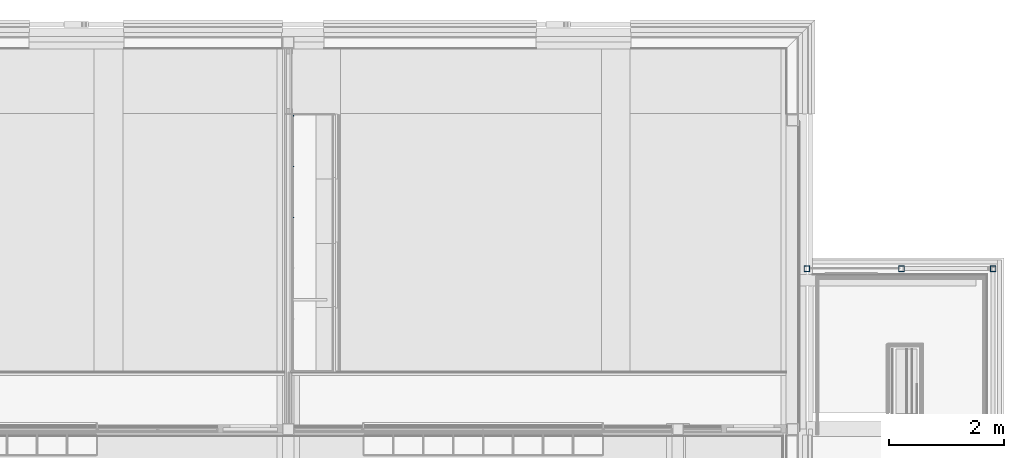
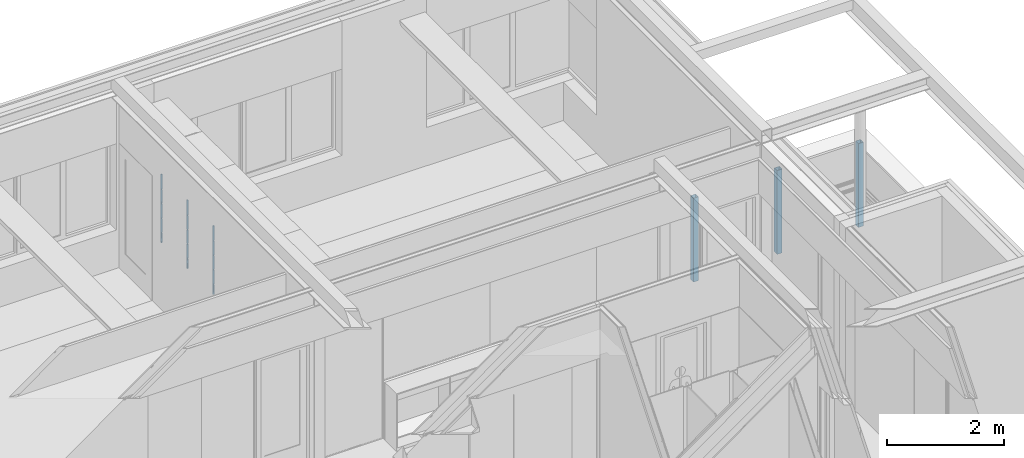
# One storey, part 11 of 137: 6 columns.
"""IFC2X3 building model written with IfcOpenShell, lengths in millimetres."""

from ifc_helpers import new_model, entity, si_unit, converted_unit, derived_unit, money_unit, direction, frame, origin_with_axes, place, context, subcontext, project, spatial, faceted_brep, material, type_object, element, save


model = new_model("IFC2X3")

# Units and contexts
model_context = context("Model", 3, precision=0.01, world=origin_with_axes(), true_north=direction((0.0, 1.0)))
body_context = subcontext(model_context, "Body", "Model", "MODEL_VIEW")
ifc_project = project(units=[si_unit("LENGTHUNIT", "METRE", prefix="MILLI"), si_unit("AREAUNIT", "SQUARE_METRE"), si_unit("VOLUMEUNIT", "CUBIC_METRE"), converted_unit("PLANEANGLEUNIT", "DEGREE", entity("IfcPlaneAngleMeasure", 0.0174532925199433), si_unit("PLANEANGLEUNIT", "RADIAN"), dimensions=[0, 0, 0, 0, 0, 0, 0]), money_unit("EUR"), converted_unit("TIMEUNIT", "Year", entity("IfcTimeMeasure", 31556926.0), si_unit("TIMEUNIT", "SECOND"), dimensions=[0, 0, 1, 0, 0, 0, 0]), si_unit("MASSUNIT", "GRAM", prefix="KILO"), si_unit("THERMODYNAMICTEMPERATUREUNIT", "DEGREE_CELSIUS"), si_unit("LUMINOUSINTENSITYUNIT", "LUMEN"), si_unit("ENERGYUNIT", "JOULE", prefix="MEGA"), derived_unit("THERMALCONDUCTANCEUNIT", [(si_unit("POWERUNIT", "WATT"), 1), (si_unit("LENGTHUNIT", "METRE"), -1), (si_unit("THERMODYNAMICTEMPERATUREUNIT", "KELVIN"), -1)]), derived_unit("SPECIFICHEATCAPACITYUNIT", [(si_unit("ENERGYUNIT", "JOULE"), 1), (si_unit("MASSUNIT", "GRAM", prefix="KILO"), -1), (si_unit("THERMODYNAMICTEMPERATUREUNIT", "KELVIN"), -1)]), derived_unit("MASSDENSITYUNIT", [(si_unit("MASSUNIT", "GRAM", prefix="KILO"), 1), (si_unit("VOLUMEUNIT", "CUBIC_METRE"), -1)])], contexts=[model_context])

# Site, building, storey
site_placement = place(None, origin_with_axes())
site = spatial("IfcSite", under=ifc_project, at=site_placement, Name="Site", CompositionType="ELEMENT")
building_placement = place(site_placement, origin_with_axes())
building = spatial("IfcBuilding", under=site, at=building_placement, Name="Naam gebouw", CompositionType="ELEMENT")
storey_placement = place(building_placement, frame((0.0, 0.0, 3960.0), z_axis=(0.0, 0.0, 1.0), x_axis=(1.0, 0.0, 0.0)))
storey = spatial("IfcBuildingStorey", under=building, at=storey_placement, Name="1e verdieping", CompositionType="ELEMENT", Elevation=3960.0)

# Columns
ifc_material_1 = material(Name="Metaal - Staal C")
column_type_1 = type_object("IfcColumnType", Name="100X100X5 100 x 100", PredefinedType="COLUMN")
for number, where, z_axis, x_axis, name in (
    (1, (29999.99999999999, 25124.97621976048, -1119.999986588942), (0.0, 0.0, 1.0), (1.0, 0.0, 0.0), "28_Kolom-x"),
    (2, (26750.00000000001, 25124.97621976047, -1119.999986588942), (0.0, 0.0, 1.0), (1.0, 0.0, 0.0), "28_Kolom-x"),
    (3, (28399.99998415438, 25124.97621976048, -1119.999986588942), (0.0, 0.0, 1.0), (1.0, 0.0, 0.0), "28_Kolom-x"),
):
    element("IfcColumn", number, at=place(storey_placement, frame(where, z_axis=z_axis, x_axis=x_axis)), inside=storey, type_object=column_type_1, material=ifc_material_1, Name=name, ObjectType="COLUMN", context=body_context, shape_type="Brep", body=[
        faceted_brep([(-50.00000000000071, -50.00000000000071, 1744.999986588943), (-50.00000000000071, -50.00000000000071, 0.0), (50.00000000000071, -50.00000000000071, 0.0), (50.00000000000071, -50.00000000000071, 1744.999986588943), (-50.00000000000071, 50.00000000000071, 1744.999986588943), (-50.00000000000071, 50.00000000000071, 0.0), (50.00000000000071, 50.00000000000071, 0.0), (-45.00000000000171, 45.00000000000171, 0.0), (-45.00000000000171, -45.00000000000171, 0.0), (45.00000000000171, -45.00000000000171, 0.0), (45.00000000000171, 45.00000000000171, 0.0), (50.00000000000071, 50.00000000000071, 1744.999986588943), (45.00000000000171, -45.00000000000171, 1744.999986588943), (-45.00000000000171, -45.00000000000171, 1744.999986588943), (-45.00000000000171, 45.00000000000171, 1744.999986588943), (45.00000000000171, 45.00000000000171, 1744.999986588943)], [[[0, 1, 2, 3]], [[4, 5, 1, 0]], [[2, 1, 5, 6], [7, 8, 9, 10]], [[3, 2, 6, 11]], [[4, 0, 3, 11], [12, 13, 14, 15]], [[11, 6, 5, 4]], [[13, 8, 7, 14]], [[12, 9, 8, 13]], [[15, 10, 9, 12]], [[14, 7, 10, 15]]]),
    ])
ifc_material_2 = material(Name="ALG - ALGEMEEN")
column_type_2 = type_object("IfcColumnType", Name="ALG - ALGEMEEN 20 x 20", PredefinedType="COLUMN")
column_1_placement = place(storey_placement, frame((17792.49942456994, 26020.99984707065, 1182.0), z_axis=(0.0, 0.0, 1.0), x_axis=(1.0, 0.0, 0.0)))
element("IfcColumn", 4, at=column_1_placement, inside=storey, type_object=column_type_2, material=ifc_material_2, Name="28_Kolom-x", ObjectType="COLUMN", context=body_context, shape_type="Brep", body=[
    faceted_brep([(-8.000000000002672, 9.99999999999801, 0.0), (-8.000000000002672, 9.99999999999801, 198.0000000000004), (9.99999999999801, 9.99999999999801, 198.0000000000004), (9.99999999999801, 9.99999999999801, 0.0), (-8.000000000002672, -10.00000000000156, 0.0), (-8.000000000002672, -10.00000000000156, 198.0000000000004), (9.99999999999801, -10.00000000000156, 198.0000000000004), (9.99999999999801, -10.00000000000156, 0.0)], [[[0, 1, 2, 3]], [[4, 5, 1, 0]], [[5, 6, 2, 1]], [[3, 2, 6, 7]], [[3, 7, 4, 0]], [[7, 6, 5, 4]]]),
    faceted_brep([(9.99999999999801, -10.00000000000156, 1418.000000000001), (9.99999999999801, -10.00000000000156, 1118.0), (9.99999999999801, 9.99999999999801, 1118.0), (9.99999999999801, 9.99999999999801, 1418.000000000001), (-8.000000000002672, -10.00000000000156, 1418.000000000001), (-8.000000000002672, -10.00000000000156, 1118.0), (-8.000000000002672, 9.99999999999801, 1118.0), (-8.000000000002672, 9.99999999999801, 1418.000000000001)], [[[0, 1, 2, 3]], [[4, 5, 1, 0]], [[5, 6, 2, 1]], [[3, 2, 6, 7]], [[0, 3, 7, 4]], [[7, 6, 5, 4]]]),
    faceted_brep([(9.99999999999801, -10.00000000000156, 1098.000000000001), (9.99999999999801, -10.00000000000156, 818.0000000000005), (9.99999999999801, 9.99999999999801, 818.0000000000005), (9.99999999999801, 9.99999999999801, 1098.000000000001), (-8.000000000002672, -10.00000000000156, 1098.000000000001), (-8.000000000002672, -10.00000000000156, 818.0000000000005), (-8.000000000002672, 9.99999999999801, 818.0000000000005), (-8.000000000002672, 9.99999999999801, 1098.000000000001)], [[[0, 1, 2, 3]], [[4, 5, 1, 0]], [[5, 6, 2, 1]], [[3, 2, 6, 7]], [[4, 0, 3, 7]], [[7, 6, 5, 4]]]),
    faceted_brep([(9.99999999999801, -10.00000000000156, 798.0000000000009), (9.99999999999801, -10.00000000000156, 518.0000000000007), (9.99999999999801, 9.99999999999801, 518.0000000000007), (9.99999999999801, 9.99999999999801, 798.0000000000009), (-8.000000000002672, -10.00000000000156, 798.0000000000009), (-8.000000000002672, -10.00000000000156, 518.0000000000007), (-8.000000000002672, 9.99999999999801, 518.0000000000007), (-8.000000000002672, 9.99999999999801, 798.0000000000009)], [[[0, 1, 2, 3]], [[4, 5, 1, 0]], [[5, 6, 2, 1]], [[3, 2, 6, 7]], [[4, 0, 3, 7]], [[7, 6, 5, 4]]]),
    faceted_brep([(9.99999999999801, -10.00000000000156, 498.0000000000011), (9.99999999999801, -10.00000000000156, 218.0), (9.99999999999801, 9.99999999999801, 218.0), (9.99999999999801, 9.99999999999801, 498.0000000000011), (-8.000000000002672, -10.00000000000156, 498.0000000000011), (-8.000000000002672, -10.00000000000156, 218.0), (-8.000000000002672, 9.99999999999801, 218.0), (-8.000000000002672, 9.99999999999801, 498.0000000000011)], [[[0, 1, 2, 3]], [[4, 5, 1, 0]], [[5, 6, 2, 1]], [[3, 2, 6, 7]], [[4, 0, 3, 7]], [[7, 6, 5, 4]]]),
])
column_2_placement = place(storey_placement, frame((17792.49942456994, 26906.99984707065, 1182.0), z_axis=(0.0, 0.0, 1.0), x_axis=(1.0, 0.0, 0.0)))
element("IfcColumn", 5, at=column_2_placement, inside=storey, type_object=column_type_2, material=ifc_material_2, Name="28_Kolom-x", ObjectType="COLUMN", context=body_context, shape_type="Brep", body=[
    faceted_brep([(-8.000000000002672, 9.99999999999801, 0.0), (-8.000000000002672, 9.99999999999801, 198.0000000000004), (9.99999999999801, 9.99999999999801, 198.0000000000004), (9.99999999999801, 9.99999999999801, 0.0), (-8.000000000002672, -10.00000000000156, 0.0), (-8.000000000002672, -10.00000000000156, 198.0000000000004), (9.99999999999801, -10.00000000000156, 198.0000000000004), (9.99999999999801, -10.00000000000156, 0.0)], [[[0, 1, 2, 3]], [[4, 5, 1, 0]], [[5, 6, 2, 1]], [[3, 2, 6, 7]], [[3, 7, 4, 0]], [[7, 6, 5, 4]]]),
    faceted_brep([(9.99999999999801, -10.00000000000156, 1418.000000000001), (9.99999999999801, -10.00000000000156, 1118.0), (9.99999999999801, 9.99999999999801, 1118.0), (9.99999999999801, 9.99999999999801, 1418.000000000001), (-8.000000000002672, -10.00000000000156, 1418.000000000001), (-8.000000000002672, -10.00000000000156, 1118.0), (-8.000000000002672, 9.99999999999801, 1118.0), (-8.000000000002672, 9.99999999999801, 1418.000000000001)], [[[0, 1, 2, 3]], [[4, 5, 1, 0]], [[5, 6, 2, 1]], [[3, 2, 6, 7]], [[0, 3, 7, 4]], [[7, 6, 5, 4]]]),
    faceted_brep([(9.99999999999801, -10.00000000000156, 1098.000000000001), (9.99999999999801, -10.00000000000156, 818.0000000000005), (9.99999999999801, 9.99999999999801, 818.0000000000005), (9.99999999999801, 9.99999999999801, 1098.000000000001), (-8.000000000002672, -10.00000000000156, 1098.000000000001), (-8.000000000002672, -10.00000000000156, 818.0000000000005), (-8.000000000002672, 9.99999999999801, 818.0000000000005), (-8.000000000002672, 9.99999999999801, 1098.000000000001)], [[[0, 1, 2, 3]], [[4, 5, 1, 0]], [[5, 6, 2, 1]], [[3, 2, 6, 7]], [[4, 0, 3, 7]], [[7, 6, 5, 4]]]),
    faceted_brep([(9.99999999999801, -10.00000000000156, 798.0000000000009), (9.99999999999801, -10.00000000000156, 518.0000000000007), (9.99999999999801, 9.99999999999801, 518.0000000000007), (9.99999999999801, 9.99999999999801, 798.0000000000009), (-8.000000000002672, -10.00000000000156, 798.0000000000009), (-8.000000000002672, -10.00000000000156, 518.0000000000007), (-8.000000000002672, 9.99999999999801, 518.0000000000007), (-8.000000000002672, 9.99999999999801, 798.0000000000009)], [[[0, 1, 2, 3]], [[4, 5, 1, 0]], [[5, 6, 2, 1]], [[3, 2, 6, 7]], [[4, 0, 3, 7]], [[7, 6, 5, 4]]]),
    faceted_brep([(9.99999999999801, -10.00000000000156, 498.0000000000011), (9.99999999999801, -10.00000000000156, 218.0), (9.99999999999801, 9.99999999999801, 218.0), (9.99999999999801, 9.99999999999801, 498.0000000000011), (-8.000000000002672, -10.00000000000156, 498.0000000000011), (-8.000000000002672, -10.00000000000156, 218.0), (-8.000000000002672, 9.99999999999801, 218.0), (-8.000000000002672, 9.99999999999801, 498.0000000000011)], [[[0, 1, 2, 3]], [[4, 5, 1, 0]], [[5, 6, 2, 1]], [[3, 2, 6, 7]], [[4, 0, 3, 7]], [[7, 6, 5, 4]]]),
])
column_3_placement = place(storey_placement, frame((17792.49942456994, 27792.99984707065, 1182.0), z_axis=(0.0, 0.0, 1.0), x_axis=(1.0, 0.0, 0.0)))
element("IfcColumn", 6, at=column_3_placement, inside=storey, type_object=column_type_2, material=ifc_material_2, Name="28_Kolom-x", ObjectType="COLUMN", context=body_context, shape_type="Brep", body=[
    faceted_brep([(-8.000000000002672, 9.99999999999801, 0.0), (-8.000000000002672, 9.99999999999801, 198.0000000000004), (9.99999999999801, 9.99999999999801, 198.0000000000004), (9.99999999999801, 9.99999999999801, 0.0), (-8.000000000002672, -10.00000000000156, 0.0), (-8.000000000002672, -10.00000000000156, 198.0000000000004), (9.99999999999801, -10.00000000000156, 198.0000000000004), (9.99999999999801, -10.00000000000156, 0.0)], [[[0, 1, 2, 3]], [[4, 5, 1, 0]], [[5, 6, 2, 1]], [[3, 2, 6, 7]], [[3, 7, 4, 0]], [[7, 6, 5, 4]]]),
    faceted_brep([(9.99999999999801, -10.00000000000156, 1418.000000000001), (9.99999999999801, -10.00000000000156, 1118.0), (9.99999999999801, 9.99999999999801, 1118.0), (9.99999999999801, 9.99999999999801, 1418.000000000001), (-8.000000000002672, -10.00000000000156, 1418.000000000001), (-8.000000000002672, -10.00000000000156, 1118.0), (-8.000000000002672, 9.99999999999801, 1118.0), (-8.000000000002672, 9.99999999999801, 1418.000000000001)], [[[0, 1, 2, 3]], [[4, 5, 1, 0]], [[5, 6, 2, 1]], [[3, 2, 6, 7]], [[0, 3, 7, 4]], [[7, 6, 5, 4]]]),
    faceted_brep([(9.99999999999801, -10.00000000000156, 1098.000000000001), (9.99999999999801, -10.00000000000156, 818.0000000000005), (9.99999999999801, 9.99999999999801, 818.0000000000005), (9.99999999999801, 9.99999999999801, 1098.000000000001), (-8.000000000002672, -10.00000000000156, 1098.000000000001), (-8.000000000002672, -10.00000000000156, 818.0000000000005), (-8.000000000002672, 9.99999999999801, 818.0000000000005), (-8.000000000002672, 9.99999999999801, 1098.000000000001)], [[[0, 1, 2, 3]], [[4, 5, 1, 0]], [[5, 6, 2, 1]], [[3, 2, 6, 7]], [[4, 0, 3, 7]], [[7, 6, 5, 4]]]),
    faceted_brep([(9.99999999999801, -10.00000000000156, 798.0000000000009), (9.99999999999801, -10.00000000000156, 518.0000000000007), (9.99999999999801, 9.99999999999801, 518.0000000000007), (9.99999999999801, 9.99999999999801, 798.0000000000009), (-8.000000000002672, -10.00000000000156, 798.0000000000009), (-8.000000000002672, -10.00000000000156, 518.0000000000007), (-8.000000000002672, 9.99999999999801, 518.0000000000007), (-8.000000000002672, 9.99999999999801, 798.0000000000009)], [[[0, 1, 2, 3]], [[4, 5, 1, 0]], [[5, 6, 2, 1]], [[3, 2, 6, 7]], [[4, 0, 3, 7]], [[7, 6, 5, 4]]]),
    faceted_brep([(9.99999999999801, -10.00000000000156, 498.0000000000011), (9.99999999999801, -10.00000000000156, 218.0), (9.99999999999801, 9.99999999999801, 218.0), (9.99999999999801, 9.99999999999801, 498.0000000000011), (-8.000000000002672, -10.00000000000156, 498.0000000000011), (-8.000000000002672, -10.00000000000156, 218.0), (-8.000000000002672, 9.99999999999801, 218.0), (-8.000000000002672, 9.99999999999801, 498.0000000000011)], [[[0, 1, 2, 3]], [[4, 5, 1, 0]], [[5, 6, 2, 1]], [[3, 2, 6, 7]], [[4, 0, 3, 7]], [[7, 6, 5, 4]]]),
])

save(model, "model.ifc")
